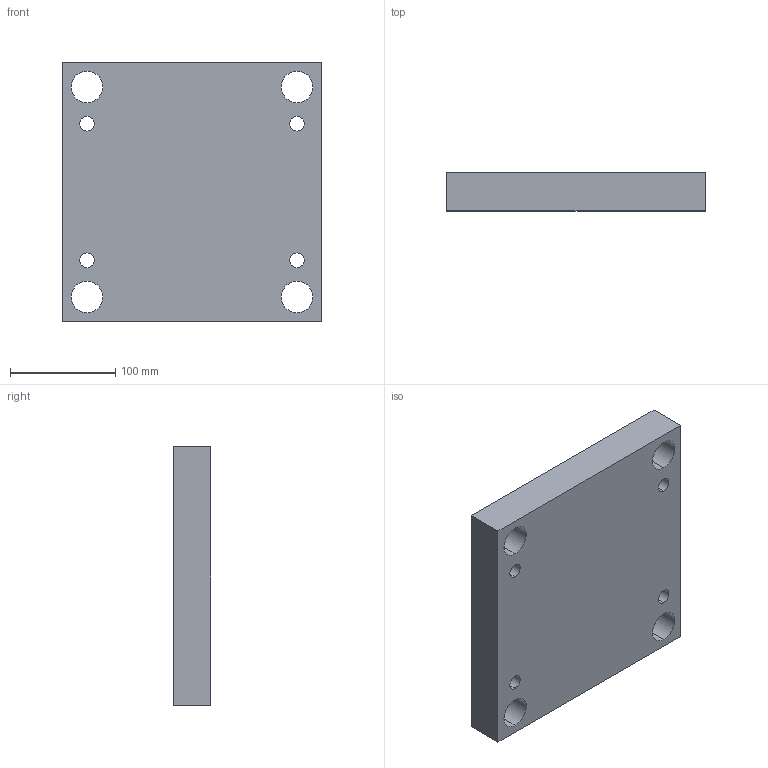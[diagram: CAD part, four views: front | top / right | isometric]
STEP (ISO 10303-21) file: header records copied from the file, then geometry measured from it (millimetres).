
FILE_DESCRIPTION (( 'STEP AP214' ), '1' );
FILE_NAME ('L45_246x246x36.STEP', '2018-10-05T18:39:35', ( '' ), ( '' ), 'SwSTEP 2.0', 'SolidWorks 2014', '' );
FILE_SCHEMA (( 'AUTOMOTIVE_DESIGN' ));
Length unit declared in the file: millimetre
Products named in the file (1): L45_246x246x36
Bounding box: 246 x 36 x 246 mm (x, y, z)
Volume: 2054621.3 mm3; surface area: 169474.8 mm2
Topology: 1 solids, 1 shells, 22 faces, 60 edges, 40 vertices
Faces by surface type: cylinder 16, plane 6
Entity records: 782 total; most frequent: DIRECTION 138, CARTESIAN_POINT 123, ORIENTED_EDGE 120, EDGE_CURVE 60, AXIS2_PLACEMENT_3D 55, VERTEX_POINT 40, EDGE_LOOP 38, CIRCLE 32
